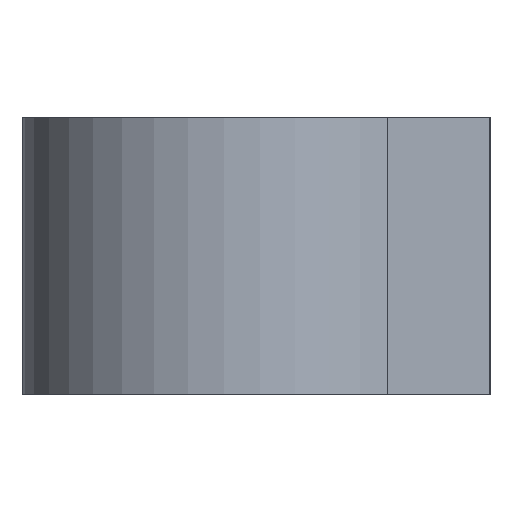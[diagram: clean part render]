
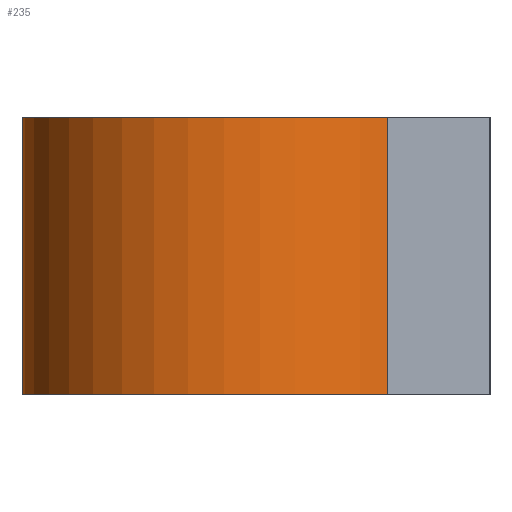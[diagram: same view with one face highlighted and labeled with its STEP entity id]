
A CAD part, left-side view. The second image highlights one B-rep face of the part: STEP entity #235.
In plain terms, the highlighted cylindrical face has radius 14.7 mm (diameter 29.4 mm), a partial arc.
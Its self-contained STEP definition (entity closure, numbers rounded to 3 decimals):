
#177=CARTESIAN_POINT('',(-10.394,-10.394,11.));
#178=VERTEX_POINT('',#177);
#185=CARTESIAN_POINT('',(-10.394,-10.394,-8.));
#186=VERTEX_POINT('',#185);
#187=CARTESIAN_POINT('',(-10.394,-10.394,-8.));
#188=DIRECTION('',(0.0,0.0,1.0));
#189=VECTOR('',#188,19.);
#190=LINE('',#187,#189);
#191=EDGE_CURVE('',#186,#178,#190,.T.);
#203=CARTESIAN_POINT('',(0.,0.,-8.));
#204=DIRECTION('',(0.0,0.0,1.0));
#205=DIRECTION('',(0.,1.0,0.0));
#206=AXIS2_PLACEMENT_3D('',#203,#204,#205);
#207=CYLINDRICAL_SURFACE('',#206,14.7);
#208=CARTESIAN_POINT('',(0.,14.7,11.));
#209=VERTEX_POINT('',#208);
#210=CARTESIAN_POINT('',(0.,0.,11.));
#211=DIRECTION('',(0.0,0.0,-1.0));
#212=DIRECTION('',(0.,1.0,0.0));
#213=AXIS2_PLACEMENT_3D('',#210,#211,#212);
#214=CIRCLE('',#213,14.7);
#215=EDGE_CURVE('',#178,#209,#214,.T.);
#216=ORIENTED_EDGE('',*,*,#215,.T.);
#217=CARTESIAN_POINT('',(0.,14.7,-8.));
#218=VERTEX_POINT('',#217);
#219=CARTESIAN_POINT('',(0.,14.7,-8.));
#220=DIRECTION('',(0.0,0.0,1.0));
#221=VECTOR('',#220,19.);
#222=LINE('',#219,#221);
#223=EDGE_CURVE('',#218,#209,#222,.T.);
#224=ORIENTED_EDGE('',*,*,#223,.F.);
#225=CARTESIAN_POINT('',(0.,0.,-8.));
#226=DIRECTION('',(0.0,0.0,1.0));
#227=DIRECTION('',(0.,1.0,0.0));
#228=AXIS2_PLACEMENT_3D('',#225,#226,#227);
#229=CIRCLE('',#228,14.7);
#230=EDGE_CURVE('',#218,#186,#229,.T.);
#231=ORIENTED_EDGE('',*,*,#230,.T.);
#232=ORIENTED_EDGE('',*,*,#191,.T.);
#233=EDGE_LOOP('',(#216,#224,#231,#232));
#234=FACE_OUTER_BOUND('',#233,.T.);
#235=ADVANCED_FACE('',(#234),#207,.T.);
